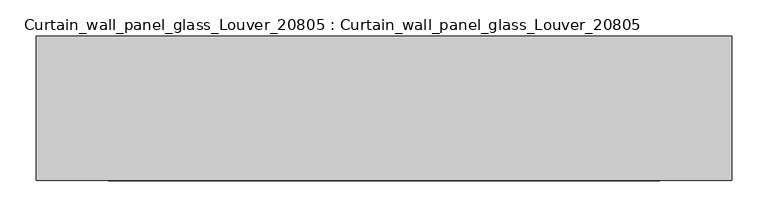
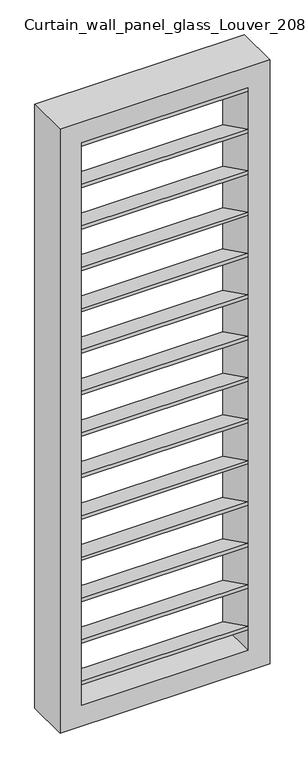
"""IFC4 building model written with IfcOpenShell, lengths in millimetres: plate geometry, Curtain_wall_panel_glass_Louver_20805 : Curtain_wall_panel_glass_Louver_20805."""

from ifc_helpers import new_model, si_unit, frame, origin, place, context, project, spatial, polyline, outline, extrude, source, transform, mapped, element, save


def curtain_wall_panel_glass_louver_20805_curtain_wall_panel_53968385(model_context):
    return source(origin(), model_context, "Body", "SweptSolid", [
        extrude(outline(polyline([(-200.0, 199.3849981), (-200.0, 216.1349309), (0.0, 116.7499328), (0.0, 100.0), (-200.0, 199.3849981)])), frame((-381.25, 0.0, 0.0), z_axis=(1.0, 0.0, 0.0), x_axis=(0.0, 1.0, 0.0)), (0.0, 0.0, 1.0), 762.5),
        extrude(outline(polyline([(-200.0, 2808.2500672), (-200.0, 2825.0), (0.0, 2725.6150019), (0.0, 2708.8650691), (-200.0, 2808.2500672)])), frame((-381.25, 0.0, 0.0), z_axis=(1.0, 0.0, 0.0), x_axis=(0.0, 1.0, 0.0)), (0.0, 0.0, 1.0), 762.5),
        extrude(outline(polyline([(-200.0, 400.0669265), (-200.0, 416.8168593), (0.0, 317.4318612), (0.0, 300.6819284), (-200.0, 400.0669265)])), frame((-381.25, 0.0, 0.0), z_axis=(1.0, 0.0, 0.0), x_axis=(0.0, 1.0, 0.0)), (0.0, 0.0, 1.0), 762.5),
        extrude(outline(polyline([(-200.0, 600.7488549), (-200.0, 617.4987877), (0.0, 518.1137896), (0.0, 501.3638568), (-200.0, 600.7488549)])), frame((-381.25, 0.0, 0.0), z_axis=(1.0, 0.0, 0.0), x_axis=(0.0, 1.0, 0.0)), (0.0, 0.0, 1.0), 762.5),
        extrude(outline(polyline([(-200.0, 801.4307833), (-200.0, 818.1807161), (0.0, 718.795718), (0.0, 702.0457852), (-200.0, 801.4307833)])), frame((-381.25, 0.0, 0.0), z_axis=(1.0, 0.0, 0.0), x_axis=(0.0, 1.0, 0.0)), (0.0, 0.0, 1.0), 762.5),
        extrude(outline(polyline([(-200.0, 1002.1127117), (-200.0, 1018.8626445), (0.0, 919.4776464), (0.0, 902.7277136), (-200.0, 1002.1127117)])), frame((-381.25, 0.0, 0.0), z_axis=(1.0, 0.0, 0.0), x_axis=(0.0, 1.0, 0.0)), (0.0, 0.0, 1.0), 762.5),
        extrude(outline(polyline([(-200.0, 1202.79464), (-200.0, 1219.5445729), (0.0, 1120.1595748), (0.0, 1103.4096419), (-200.0, 1202.79464)])), frame((-381.25, 0.0, 0.0), z_axis=(1.0, 0.0, 0.0), x_axis=(0.0, 1.0, 0.0)), (0.0, 0.0, 1.0), 762.5),
        extrude(outline(polyline([(-200.0, 1403.4765684), (-200.0, 1420.2265013), (0.0, 1320.8415032), (0.0, 1304.0915703), (-200.0, 1403.4765684)])), frame((-381.25, 0.0, 0.0), z_axis=(1.0, 0.0, 0.0), x_axis=(0.0, 1.0, 0.0)), (0.0, 0.0, 1.0), 762.5),
        extrude(outline(polyline([(-200.0, 1604.1584968), (-200.0, 1620.9084297), (0.0, 1521.5234316), (0.0, 1504.7734987), (-200.0, 1604.1584968)])), frame((-381.25, 0.0, 0.0), z_axis=(1.0, 0.0, 0.0), x_axis=(0.0, 1.0, 0.0)), (0.0, 0.0, 1.0), 762.5),
        extrude(outline(polyline([(-200.0, 1804.8404252), (-200.0, 1821.5903581), (0.0, 1722.20536), (0.0, 1705.4554271), (-200.0, 1804.8404252)])), frame((-381.25, 0.0, 0.0), z_axis=(1.0, 0.0, 0.0), x_axis=(0.0, 1.0, 0.0)), (0.0, 0.0, 1.0), 762.5),
        extrude(outline(polyline([(-200.0, 2005.5223536), (-200.0, 2022.2722864), (0.0, 1922.8872883), (0.0, 1906.1373555), (-200.0, 2005.5223536)])), frame((-381.25, 0.0, 0.0), z_axis=(1.0, 0.0, 0.0), x_axis=(0.0, 1.0, 0.0)), (0.0, 0.0, 1.0), 762.5),
        extrude(outline(polyline([(-200.0, 2206.204282), (-200.0, 2222.9542148), (0.0, 2123.5692167), (0.0, 2106.8192839), (-200.0, 2206.204282)])), frame((-381.25, 0.0, 0.0), z_axis=(1.0, 0.0, 0.0), x_axis=(0.0, 1.0, 0.0)), (0.0, 0.0, 1.0), 762.5),
        extrude(outline(polyline([(-200.0, 2406.8862104), (-200.0, 2423.6361432), (0.0, 2324.2511451), (0.0, 2307.5012123), (-200.0, 2406.8862104)])), frame((-381.25, 0.0, 0.0), z_axis=(1.0, 0.0, 0.0), x_axis=(0.0, 1.0, 0.0)), (0.0, 0.0, 1.0), 762.5),
        extrude(outline(polyline([(-200.0, 2607.5681388), (-200.0, 2624.3180716), (0.0, 2524.9330735), (0.0, 2508.1831407), (-200.0, 2607.5681388)])), frame((-381.25, 0.0, 0.0), z_axis=(1.0, 0.0, 0.0), x_axis=(0.0, 1.0, 0.0)), (0.0, 0.0, 1.0), 762.5),
        extrude(outline(polyline([(2925.0, -481.25), (0.0, -481.25), (0.0, 481.25), (2925.0, 481.25), (2925.0, -481.25)]), holes=[polyline([(2825.0, -381.25), (2825.0, 381.25), (100.0, 381.25), (100.0, -381.25), (2825.0, -381.25)])]), frame((0.0, -200.0, 0.0), z_axis=(0.0, 1.0, 0.0), x_axis=(0.0, 0.0, 1.0)), (0.0, 0.0, 1.0), 200.0),
    ])


if __name__ == "__main__":
    model = new_model("IFC4")
    model_context = context("Model", 3, world=origin())
    ifc_project = project(units=[si_unit("LENGTHUNIT", "METRE", prefix="MILLI")], contexts=[model_context])
    site = spatial("IfcSite", under=ifc_project)
    building = spatial("IfcBuilding", under=site)
    placement = place(None, origin())
    curtain_wall_panel_glass_louver_20805_curtain_wall_panel_shape = curtain_wall_panel_glass_louver_20805_curtain_wall_panel_53968385(model_context)
    element("IfcPlate", 1, ObjectType="Curtain_wall_panel_glass_Louver_20805 : Curtain_wall_panel_glass_Louver_20805", at=placement, inside=building, context=model_context, shape_type="MappedRepresentation", body=[
        mapped(curtain_wall_panel_glass_louver_20805_curtain_wall_panel_shape, transform((0.0, 0.0, 0.0), x_axis=(1.0, 0.0, 0.0), y_axis=(0.0, 1.0, 0.0), z_axis=(0.0, 0.0, 1.0))),
    ])
    save(model, "model.ifc")
